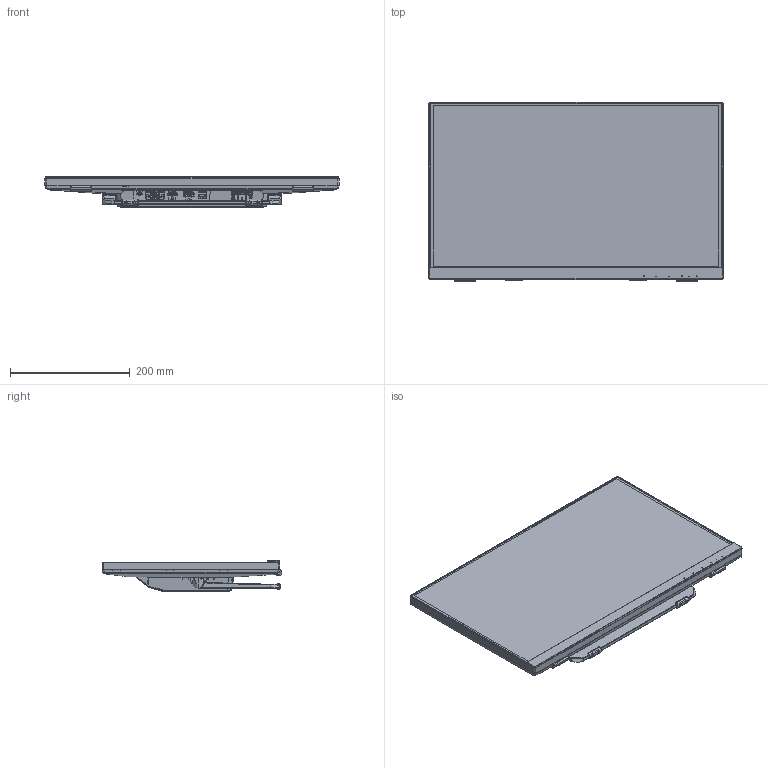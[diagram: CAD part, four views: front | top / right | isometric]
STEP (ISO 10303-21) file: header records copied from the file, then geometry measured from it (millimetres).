
FILE_DESCRIPTION (( 'STEP AP214' ), '1' );
FILE_NAME ('997-8286.STEP', '2016-04-12T22:08:48', ( '' ), ( '' ), 'SwSTEP 2.0', 'SolidWorks 2016', '' );
FILE_SCHEMA (( 'AUTOMOTIVE_DESIGN' ));
Length unit declared in the file: millimetre
Products named in the file (1): 997-8286
Bounding box: 490.3 x 299.39 x 50.3 mm (x, y, z)
Topology: 0 solids, 105 shells, 9863 faces, 27396 edges, 17818 vertices
Faces by surface type: plane 7343, cylinder 1810, bspline 524, cone 176, torus 10
Full cylindrical faces by diameter (mm): 0.4 x5
Entity records: 452911 total; most frequent: CARTESIAN_POINT 117879, ORIENTED_EDGE 54427, DIRECTION 42144, EDGE_CURVE 27343, LINE 18752, VECTOR 18752, VERTEX_POINT 17816, AXIS2_PLACEMENT_3D 11696
